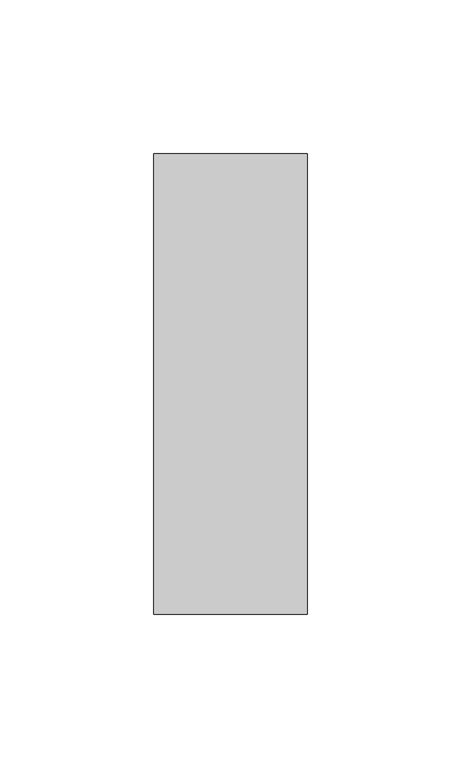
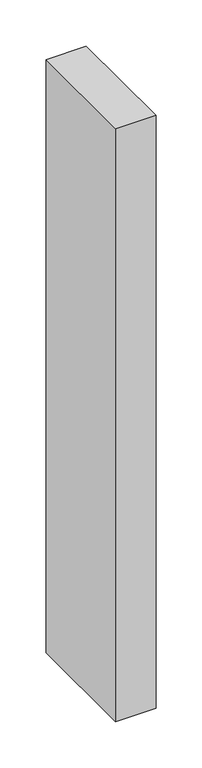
"""IFC4 building model written with IfcOpenShell, lengths in millimetres: member geometry, Прямоугольный импост : 50 x 150 мм."""

import ifcopenshell
import ifcopenshell.guid

model = None  # the IFC model being written
_history = None  # IfcOwnerHistory: only IFC2X3 demands one
_inside = {}  # id of a spatial element -> (the spatial element, [elements in it])
_under = {}  # id of a project, library or spatial element -> (it, [spatial elements below it])
_declared = {}  # id of a project -> (the project, [libraries it declares])
_typed = {}  # id of a type object -> (the type object, [elements of that type])
_made_of = {}  # id of a material, layer set ... -> (it, [elements and type objects made of it])


def new_model(schema):
    """Start an empty IFC model of exactly this schema.

    Asked for "IFC4X3", IfcOpenShell would pick the latest addendum, in which some entities
    have other attributes; the version numbers below select the first issue.
    IFC2X3 requires an IfcOwnerHistory on every rooted entity: one is made here for all.
    """
    global model, _history
    if schema == "IFC4X3":
        model = ifcopenshell.file(schema_version=(4, 3, 0, 0))
    else:
        model = ifcopenshell.file(schema=schema)
    _inside.clear()
    _under.clear()
    _declared.clear()
    _typed.clear()
    _made_of.clear()
    _history = None
    if model.schema == "IFC2X3":
        org = make("IfcOrganization", Name="unknown")
        user = make(
            "IfcPersonAndOrganization",
            ThePerson=make("IfcPerson", FamilyName="unknown"),
            TheOrganization=org,
        )
        app = make(
            "IfcApplication",
            ApplicationDeveloper=org,
            Version="unknown",
            ApplicationFullName="unknown",
            ApplicationIdentifier="unknown",
        )
        _history = make(
            "IfcOwnerHistory",
            OwningUser=user,
            OwningApplication=app,
            ChangeAction="ADDED",
            CreationDate=0,
        )
    return model


def make(cls, **values):
    """One entity of the class cls with the attributes given. An attribute that is None is left unset."""
    return model.create_entity(
        cls, **{name: value for name, value in values.items() if value is not None}
    )


def rooted(cls, **values):
    """An entity with a GlobalId (a new one), such as an element, a storey or a relation."""
    return make(cls, GlobalId=ifcopenshell.guid.new(), OwnerHistory=_history, **values)


def si_unit(unit_type, name, prefix=None):
    """IfcSIUnit, for example si_unit("LENGTHUNIT", "METRE", prefix="MILLI")."""
    return make("IfcSIUnit", UnitType=unit_type, Prefix=prefix, Name=name)


def assignment(units):
    """IfcUnitAssignment: the units of a project."""
    return None if units is None else make("IfcUnitAssignment", Units=units)


def point(xyz):
    """IfcCartesianPoint."""
    return None if xyz is None else make("IfcCartesianPoint", Coordinates=xyz)


def direction(xyz):
    """IfcDirection."""
    return None if xyz is None else make("IfcDirection", DirectionRatios=xyz)


def frame(location, z_axis=None, x_axis=None):
    """IfcAxis2Placement3D, a coordinate frame: its origin and axes. An axis left out is left unset."""
    return make(
        "IfcAxis2Placement3D",
        Location=point(location),
        Axis=direction(z_axis),
        RefDirection=direction(x_axis),
    )


def origin():
    """The frame at (0, 0, 0) with its axes left unset."""
    return frame((0.0, 0.0, 0.0))


def place(relative_to, where):
    """IfcLocalPlacement: puts the frame where relative to a parent placement (None: the world)."""
    return make(
        "IfcLocalPlacement", PlacementRelTo=relative_to, RelativePlacement=where
    )


def context(
    kind, dimensions, precision=None, world=None, true_north=None, identifier=None
):
    """IfcGeometricRepresentationContext, for example the 3D "Model" context."""
    return make(
        "IfcGeometricRepresentationContext",
        ContextIdentifier=identifier,
        ContextType=kind,
        CoordinateSpaceDimension=dimensions,
        Precision=precision,
        WorldCoordinateSystem=world,
        TrueNorth=true_north,
    )


def project(units=None, contexts=None):
    """IfcProject with its units and contexts."""
    return rooted(
        "IfcProject",
        Name="project",
        RepresentationContexts=contexts,
        UnitsInContext=assignment(units),
    )


def spatial(cls, under=None, at=None, **own):
    """A site, building, storey or space (cls), placed at a placement, below another one or the project."""
    s = rooted(cls, ObjectPlacement=at, **own)
    if under is not None:
        _under.setdefault(under.id(), (under, []))[1].append(s)
    return s


def polyline(points):
    """IfcPolyline through the points."""
    return make("IfcPolyline", Points=[point(p) for p in points])


def outline(outer, holes=None, kind="AREA"):
    """IfcArbitraryClosedProfileDef: a profile drawn as a closed curve; with holes, ...WithVoids."""
    if holes is None:
        return make("IfcArbitraryClosedProfileDef", ProfileType=kind, OuterCurve=outer)
    return make(
        "IfcArbitraryProfileDefWithVoids",
        ProfileType=kind,
        OuterCurve=outer,
        InnerCurves=holes,
    )


def extrude(swept, where, along, depth):
    """IfcExtrudedAreaSolid: the profile swept, set in the frame where, extruded along a direction by depth."""
    return make(
        "IfcExtrudedAreaSolid",
        SweptArea=swept,
        Position=where,
        ExtrudedDirection=direction(along),
        Depth=depth,
    )


def shape(context_of_items, identifier, shape_type, items):
    """IfcShapeRepresentation: the items that make up one representation, for example the "Body"."""
    return make(
        "IfcShapeRepresentation",
        ContextOfItems=context_of_items,
        RepresentationIdentifier=identifier,
        RepresentationType=shape_type,
        Items=items,
    )


def source(mapping_origin, context_of_items, identifier, shape_type, items):
    """IfcRepresentationMap: a shape defined once, which mapped items show again and again."""
    return make(
        "IfcRepresentationMap",
        MappingOrigin=mapping_origin,
        MappedRepresentation=shape(context_of_items, identifier, shape_type, items),
    )


def transform(
    local_origin,
    x_axis=None,
    y_axis=None,
    z_axis=None,
    scale=None,
    scale2=None,
    scale3=None,
    uniform=True,
):
    """IfcCartesianTransformationOperator3D, or its non-uniform kind. x_axis, y_axis, z_axis: its Axis1, 2, 3."""
    if uniform:
        return make(
            "IfcCartesianTransformationOperator3D",
            Axis1=direction(x_axis),
            Axis2=direction(y_axis),
            LocalOrigin=point(local_origin),
            Scale=scale,
            Axis3=direction(z_axis),
        )
    return make(
        "IfcCartesianTransformationOperator3DnonUniform",
        Axis1=direction(x_axis),
        Axis2=direction(y_axis),
        LocalOrigin=point(local_origin),
        Scale=scale,
        Axis3=direction(z_axis),
        Scale2=scale2,
        Scale3=scale3,
    )


def mapped(mapping_source, mapping_target):
    """IfcMappedItem: shows the shape of a source again, moved by a transform."""
    return make(
        "IfcMappedItem", MappingSource=mapping_source, MappingTarget=mapping_target
    )


def made_of(thing, what):
    """Note that an element or type object is made of a material, layer set ...; save() writes the relation."""
    if what is not None:
        _made_of.setdefault(what.id(), (what, []))[1].append(thing)
    return thing


def element(
    cls,
    number,
    at=None,
    inside=None,
    cuts=None,
    type_object=None,
    material=None,
    context=None,
    identifier="Body",
    shape_type=None,
    held_by="IfcProductDefinitionShape",
    body=None,
    shapes=None,
    **own,
):
    """One element of the class cls, such as IfcWall. Its Tag is "e" and its number.

    at: its placement. inside: the storey or other place that contains it. cuts: it is an
    opening in that element (IfcRelVoidsElement). A single representation is given by context,
    identifier, shape_type and body (its items); several are given by shapes. held_by: the class
    of the entity that holds the representations. save() writes the other relations.
    """
    e = rooted(cls, Tag="e%d" % number, ObjectPlacement=at, **own)
    if body is not None:
        shapes = [shape(context, identifier, shape_type, body)]
    if shapes is not None:
        e.Representation = make(held_by, Representations=shapes)
    if inside is not None:
        _inside.setdefault(inside.id(), (inside, []))[1].append(e)
    if cuts is not None:
        rooted(
            "IfcRelVoidsElement", RelatingBuildingElement=cuts, RelatedOpeningElement=e
        )
    if type_object is not None:
        _typed.setdefault(type_object.id(), (type_object, []))[1].append(e)
    return made_of(e, material)


def aggregate(whole, parts):
    """IfcRelAggregates: a whole, such as a stair, and the parts it consists of."""
    return rooted("IfcRelAggregates", RelatingObject=whole, RelatedObjects=parts)


def save(model, path):
    """Write the relations noted so far, then the file.

    IfcRelAggregates (storeys below a building ...), IfcRelContainedInSpatialStructure (elements
    in a storey), IfcRelDefinesByType, IfcRelAssociatesMaterial and IfcRelDeclares: one each for
    every whole, place, type object, material and project.
    """
    for whole, parts in _under.values():
        aggregate(whole, parts)
    for where, things in _inside.values():
        rooted(
            "IfcRelContainedInSpatialStructure",
            RelatedElements=things,
            RelatingStructure=where,
        )
    for kind, things in _typed.values():
        rooted("IfcRelDefinesByType", RelatedObjects=things, RelatingType=kind)
    for what, things in _made_of.values():
        rooted("IfcRelAssociatesMaterial", RelatedObjects=things, RelatingMaterial=what)
    for by, libraries in _declared.values():
        rooted("IfcRelDeclares", RelatingContext=by, RelatedDefinitions=libraries)
    model.write(path)


def member_d2c86e5d(model_context):
    return source(origin(), model_context, "Body", "SweptSolid", [
        extrude(outline(polyline([(25.0, 75.0), (25.0, -75.0), (-25.0, -75.0), (-25.0, 75.0), (25.0, 75.0)])), frame((0.0, 0.0, -780.8406941), z_axis=(0.0, 0.0, 1.0), x_axis=(1.0, 0.0, 0.0)), (0.0, 0.0, 1.0), 780.8406941),
    ])


if __name__ == "__main__":
    model = new_model("IFC4")
    model_context = context("Model", 3, world=origin())
    ifc_project = project(units=[si_unit("LENGTHUNIT", "METRE", prefix="MILLI")], contexts=[model_context])
    site = spatial("IfcSite", under=ifc_project)
    building = spatial("IfcBuilding", under=site)
    placement = place(None, origin())
    member_shape = member_d2c86e5d(model_context)
    element("IfcMember", 1, ObjectType="Прямоугольный импост : 50 x 150 мм", at=placement, inside=building, context=model_context, shape_type="MappedRepresentation", body=[
        mapped(member_shape, transform((0.0, 0.0, 0.0), x_axis=(1.0, 0.0, 0.0), y_axis=(0.0, 1.0, 0.0), z_axis=(0.0, 0.0, 1.0))),
    ])
    save(model, "model.ifc")
